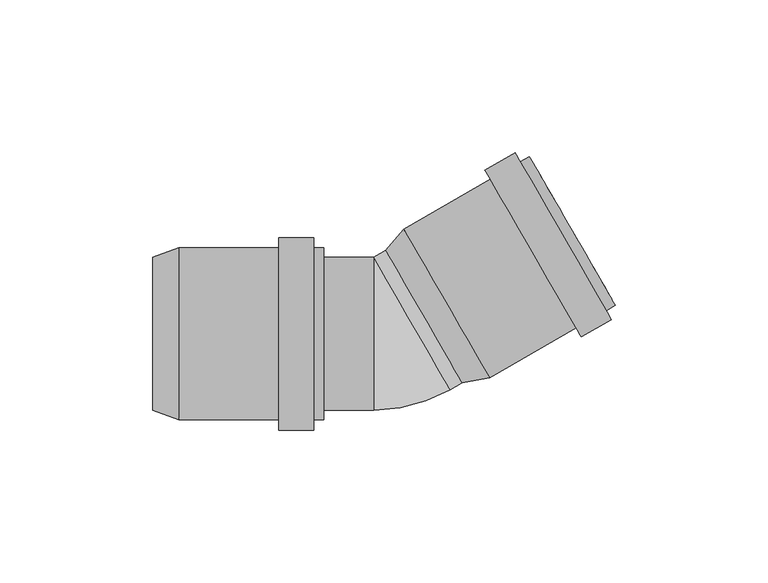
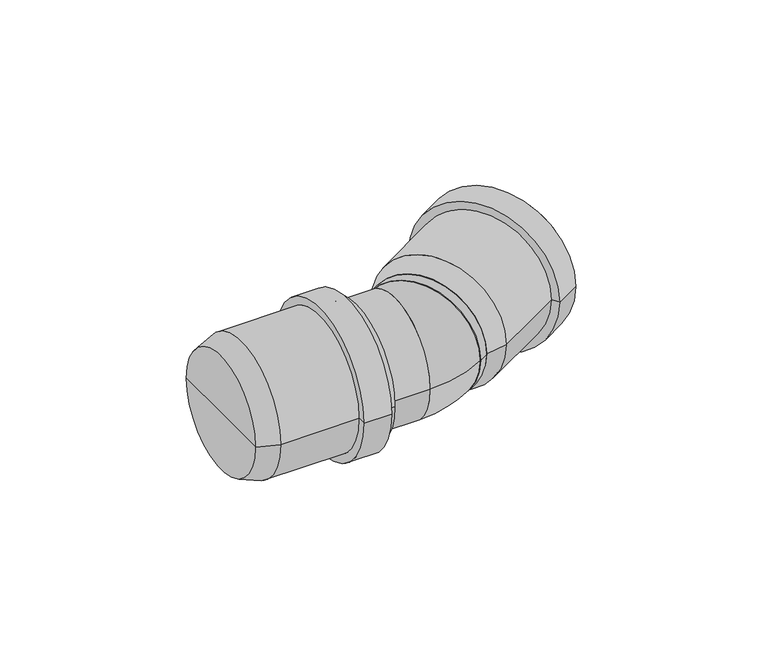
"""IFC4 building model written with IfcOpenShell, lengths in millimetres: pipe fitting geometry, pf_HTB : pf_HTB."""

from ifc_helpers import new_model, si_unit, point, frame, origin, origin_2d, place, context, project, spatial, polyline, circle_curve, ellipse_curve, trimmed, segment, composite_curve, outline, extrude, source, transform, mapped, element, save
from ifc_brep_helpers import plane_surface, cylinder_surface, revolved_surface, advanced_brep


def pipe_fitting_d9e671e8(model_context):
    return source(origin(), model_context, "Body", "SolidModel", [
        advanced_brep(
        [(22.2860871, -16.0006351, 0.0), (-2.7139129, 27.3006351, 0.0), (3.097303, 34.2353138, 0.0), (31.197303, -14.4353138, 0.0), (9.7860871, 5.65, 0.0), (72.3335097, 9.3146862, 0.0), (44.2335097, 57.9853138, 0.0), (45.7835097, 55.3006351, 0.0), (70.7835097, 11.9993649, 0.0), (69.3890233, 7.6146862, 0.0), (41.2890233, 56.2853138, 0.0), (71.0890233, 4.6701998, 0.0), (39.5890233, 59.2298002, 0.0), (61.2163337, -1.0298002, 0.0), (29.7163337, 53.5298002, 0.0), (59.5163337, 1.9146862, 0.0), (31.4163337, 50.5853138, 0.0), (29.647303, -11.7506351, 0.0), (4.647303, 31.5506351, 0.0), (17.147303, 9.9, 0.0)],
        [
            (0, 1, circle_curve(frame((9.7860871, 5.65, 0.0), z_axis=(0.8660254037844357, 0.5000000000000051, 0.0), x_axis=(-0.5000000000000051, 0.8660254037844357, 0.0)), 25.0)),
            (1, 2),
            (2, 3, circle_curve(frame((17.147303, 9.9, 0.0), z_axis=(-0.8660254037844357, -0.5000000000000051, 0.0), x_axis=(-0.5000000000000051, 0.8660254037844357, 0.0)), 28.1)),
            (3, 0),
            (1, 0, circle_curve(frame((9.7860871, 5.65, 0.0), z_axis=(0.8660254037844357, 0.5000000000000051, 0.0), x_axis=(-0.5000000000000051, 0.8660254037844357, 0.0)), 25.0)),
            (3, 2, circle_curve(frame((17.147303, 9.9, 0.0), z_axis=(-0.8660254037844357, -0.5000000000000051, 0.0), x_axis=(-0.5000000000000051, 0.8660254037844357, 0.0)), 28.1)),
            (4, 1),
            (0, 4),
            (5, 6, circle_curve(frame((58.2835097, 33.65, 0.0), z_axis=(0.8660254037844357, 0.5000000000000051, 0.0), x_axis=(-0.5000000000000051, 0.8660254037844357, 0.0)), 28.1)),
            (6, 7),
            (7, 8, circle_curve(frame((58.2835097, 33.65, 0.0), z_axis=(-0.8660254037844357, -0.5000000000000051, 0.0), x_axis=(-0.5000000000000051, 0.8660254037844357, 0.0)), 25.0)),
            (8, 5),
            (6, 5, circle_curve(frame((58.2835097, 33.65, 0.0), z_axis=(0.8660254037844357, 0.5000000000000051, 0.0), x_axis=(-0.5000000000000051, 0.8660254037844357, 0.0)), 28.1)),
            (8, 7, circle_curve(frame((58.2835097, 33.65, 0.0), z_axis=(-0.8660254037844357, -0.5000000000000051, 0.0), x_axis=(-0.5000000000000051, 0.8660254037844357, 0.0)), 25.0)),
            (9, 10, circle_curve(frame((55.3390233, 31.95, 0.0), z_axis=(0.8660254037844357, 0.5000000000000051, 0.0), x_axis=(-0.5000000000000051, 0.8660254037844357, 0.0)), 28.1)),
            (10, 6),
            (5, 9),
            (10, 9, circle_curve(frame((55.3390233, 31.95, 0.0), z_axis=(0.8660254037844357, 0.5000000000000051, 0.0), x_axis=(-0.5000000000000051, 0.8660254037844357, 0.0)), 28.1)),
            (11, 12, circle_curve(frame((55.3390233, 31.95, 0.0), z_axis=(0.8660254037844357, 0.5000000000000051, 0.0), x_axis=(-0.5000000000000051, 0.8660254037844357, 0.0)), 31.5)),
            (12, 10),
            (9, 11),
            (12, 11, circle_curve(frame((55.3390233, 31.95, 0.0), z_axis=(0.8660254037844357, 0.5000000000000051, 0.0), x_axis=(-0.5000000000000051, 0.8660254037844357, 0.0)), 31.5)),
            (13, 14, circle_curve(frame((45.4663337, 26.25, 0.0), z_axis=(0.8660254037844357, 0.5000000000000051, 0.0), x_axis=(-0.5000000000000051, 0.8660254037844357, 0.0)), 31.5)),
            (14, 12),
            (11, 13),
            (14, 13, circle_curve(frame((45.4663337, 26.25, 0.0), z_axis=(0.8660254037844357, 0.5000000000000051, 0.0), x_axis=(-0.5000000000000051, 0.8660254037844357, 0.0)), 31.5)),
            (15, 16, circle_curve(frame((45.4663337, 26.25, 0.0), z_axis=(0.8660254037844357, 0.5000000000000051, 0.0), x_axis=(-0.5000000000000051, 0.8660254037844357, 0.0)), 28.1)),
            (16, 14),
            (13, 15),
            (16, 15, circle_curve(frame((45.4663337, 26.25, 0.0), z_axis=(0.8660254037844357, 0.5000000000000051, 0.0), x_axis=(-0.5000000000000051, 0.8660254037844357, 0.0)), 28.1)),
            (2, 16),
            (15, 3),
            (17, 18, circle_curve(frame((17.147303, 9.9, 0.0), z_axis=(0.8660254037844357, 0.5000000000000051, 0.0), x_axis=(-0.5000000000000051, 0.8660254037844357, 0.0)), 25.0)),
            (18, 19),
            (19, 17),
            (18, 17, circle_curve(frame((17.147303, 9.9, 0.0), z_axis=(0.8660254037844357, 0.5000000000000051, 0.0), x_axis=(-0.5000000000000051, 0.8660254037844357, 0.0)), 25.0)),
            (7, 18),
            (17, 8),
        ],
        [
            revolved_surface(polyline([(3.097303, 34.2353138, 0.0), (-2.7139129, 27.3006351, 0.0)]), (9.7860871, 5.65, 0.0), (-0.8660254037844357, -0.5000000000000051, 0.0)),
            plane_surface(frame((9.7860871, 5.65, 0.0), z_axis=(-0.8660254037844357, -0.5000000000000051, 0.0), x_axis=(-0.5000000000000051, 0.8660254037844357, 0.0))),
            plane_surface(frame((58.2835097, 33.65, 0.0), z_axis=(0.8660254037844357, 0.5000000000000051, 0.0), x_axis=(-0.5000000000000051, 0.8660254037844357, 0.0))),
            cylinder_surface(frame((9.7860871, 5.65, 0.0), z_axis=(-0.8660254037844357, -0.5000000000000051, 0.0), x_axis=(-0.5000000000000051, 0.8660254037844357, 0.0)), 28.1),
            plane_surface(frame((55.3390233, 31.95, 0.0), z_axis=(0.8660254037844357, 0.5000000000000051, 0.0), x_axis=(-0.5000000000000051, 0.8660254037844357, 0.0))),
            cylinder_surface(frame((9.7860871, 5.65, 0.0), z_axis=(-0.8660254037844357, -0.5000000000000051, 0.0), x_axis=(-0.5000000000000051, 0.8660254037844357, 0.0)), 31.5),
            plane_surface(frame((45.4663337, 26.25, 0.0), z_axis=(-0.8660254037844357, -0.5000000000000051, 0.0), x_axis=(-0.5000000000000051, 0.8660254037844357, 0.0))),
            plane_surface(frame((17.147303, 9.9, 0.0), z_axis=(0.8660254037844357, 0.5000000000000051, 0.0), x_axis=(-0.5000000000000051, 0.8660254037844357, 0.0))),
            revolved_surface(polyline([(4.647303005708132, 31.550635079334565, 0.0), (45.783509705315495, 55.30063509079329, 0.0)]), (9.7860871, 5.65, 0.0), (-0.8660254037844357, -0.5000000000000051, 0.0)),
        ],
        [
            (0, [[1, 2, 3, 4]]),
            (0, [[5, -4, 6, -2]]),
            (1, [[7, -1, 8]]),
            (1, [[-8, -5, -7]]),
            (2, [[9, 10, 11, 12]]),
            (2, [[13, -12, 14, -10]]),
            (3, [[15, 16, -9, 17]]),
            (3, [[18, -17, -13, -16]]),
            (4, [[19, 20, -15, 21]]),
            (4, [[22, -21, -18, -20]]),
            (5, [[23, 24, -19, 25]]),
            (5, [[26, -25, -22, -24]]),
            (6, [[27, 28, -23, 29]]),
            (6, [[30, -29, -26, -28]]),
            (3, [[-3, 31, -27, 32]]),
            (3, [[-6, -32, -30, -31]]),
            (7, [[33, 34, 35]]),
            (7, [[36, -35, -34]]),
            (8, [[-11, 37, -33, 38]]),
            (8, [[-14, -38, -36, -37]]),
        ],
    ),
        advanced_brep(
        [(-79.0, -25.0, 0.0), (-79.0, 25.0, 0.0), (-70.5, 28.1, 0.0), (-70.5, -28.1, 0.0), (-79.0, 0.0, 0.0), (-23.0, -28.1, 0.0), (-23.0, 28.1, 0.0), (-23.0, 25.0, 0.0), (-23.0, -25.0, 0.0), (-26.4, -28.1, 0.0), (-26.4, 28.1, 0.0), (-26.4, -31.5, 0.0), (-26.4, 31.5, 0.0), (-37.8, -31.5, 0.0), (-37.8, 31.5, 0.0), (-37.8, -28.1, 0.0), (-37.8, 28.1, 0.0), (-70.5, -25.0, 0.0), (-70.5, 25.0, 0.0), (-70.5, 0.0, 0.0)],
        [
            (0, 1, circle_curve(frame((-79.0, 0.0, 0.0), z_axis=(1.0, 0.0, 0.0), x_axis=(0.0, 1.0, 0.0)), 25.0)),
            (1, 2),
            (2, 3, circle_curve(frame((-70.5, 0.0, 0.0), z_axis=(-1.0, 0.0, 0.0), x_axis=(0.0, 1.0, 0.0)), 28.1)),
            (3, 0),
            (1, 0, circle_curve(frame((-79.0, 0.0, 0.0), z_axis=(1.0, 0.0, 0.0), x_axis=(0.0, 1.0, 0.0)), 25.0)),
            (3, 2, circle_curve(frame((-70.5, 0.0, 0.0), z_axis=(-1.0, 0.0, 0.0), x_axis=(0.0, 1.0, 0.0)), 28.1)),
            (4, 1),
            (0, 4),
            (5, 6, circle_curve(frame((-23.0, 0.0, 0.0), z_axis=(1.0, 0.0, 0.0), x_axis=(0.0, 1.0, 0.0)), 28.1)),
            (6, 7),
            (7, 8, circle_curve(frame((-23.0, 0.0, 0.0), z_axis=(-1.0, 0.0, 0.0), x_axis=(0.0, 1.0, 0.0)), 25.0)),
            (8, 5),
            (6, 5, circle_curve(frame((-23.0, 0.0, 0.0), z_axis=(1.0, 0.0, 0.0), x_axis=(0.0, 1.0, 0.0)), 28.1)),
            (8, 7, circle_curve(frame((-23.0, 0.0, 0.0), z_axis=(-1.0, 0.0, 0.0), x_axis=(0.0, 1.0, 0.0)), 25.0)),
            (9, 10, circle_curve(frame((-26.4, 0.0, 0.0), z_axis=(1.0, 0.0, 0.0), x_axis=(0.0, 1.0, 0.0)), 28.1)),
            (10, 6),
            (5, 9),
            (10, 9, circle_curve(frame((-26.4, 0.0, 0.0), z_axis=(1.0, 0.0, 0.0), x_axis=(0.0, 1.0, 0.0)), 28.1)),
            (11, 12, circle_curve(frame((-26.4, 0.0, 0.0), z_axis=(1.0, 0.0, 0.0), x_axis=(0.0, 1.0, 0.0)), 31.5)),
            (12, 10),
            (9, 11),
            (12, 11, circle_curve(frame((-26.4, 0.0, 0.0), z_axis=(1.0, 0.0, 0.0), x_axis=(0.0, 1.0, 0.0)), 31.5)),
            (13, 14, circle_curve(frame((-37.8, 0.0, 0.0), z_axis=(1.0, 0.0, 0.0), x_axis=(0.0, 1.0, 0.0)), 31.5)),
            (14, 12),
            (11, 13),
            (14, 13, circle_curve(frame((-37.8, 0.0, 0.0), z_axis=(1.0, 0.0, 0.0), x_axis=(0.0, 1.0, 0.0)), 31.5)),
            (15, 16, circle_curve(frame((-37.8, 0.0, 0.0), z_axis=(1.0, 0.0, 0.0), x_axis=(0.0, 1.0, 0.0)), 28.1)),
            (16, 14),
            (13, 15),
            (16, 15, circle_curve(frame((-37.8, 0.0, 0.0), z_axis=(1.0, 0.0, 0.0), x_axis=(0.0, 1.0, 0.0)), 28.1)),
            (2, 16),
            (15, 3),
            (17, 18, circle_curve(frame((-70.5, 0.0, 0.0), z_axis=(1.0, 0.0, 0.0), x_axis=(0.0, 1.0, 0.0)), 25.0)),
            (18, 19),
            (19, 17),
            (18, 17, circle_curve(frame((-70.5, 0.0, 0.0), z_axis=(1.0, 0.0, 0.0), x_axis=(0.0, 1.0, 0.0)), 25.0)),
            (7, 18),
            (17, 8),
        ],
        [
            revolved_surface(polyline([(-70.5, 28.1, 0.0), (-79.0, 25.0, 0.0)]), (-79.0, 0.0, 0.0), (-1.0, 0.0, 0.0)),
            plane_surface(frame((-79.0, 0.0, 0.0), z_axis=(-1.0, 0.0, 0.0), x_axis=(0.0, 1.0, 0.0))),
            plane_surface(frame((-23.0, 0.0, 0.0), z_axis=(1.0, 0.0, 0.0), x_axis=(0.0, 1.0, 0.0))),
            cylinder_surface(frame((-79.0, 0.0, 0.0), z_axis=(-1.0, 0.0, 0.0), x_axis=(0.0, 1.0, 0.0)), 28.1),
            plane_surface(frame((-26.4, 0.0, 0.0), z_axis=(1.0, 0.0, 0.0), x_axis=(0.0, 1.0, 0.0))),
            cylinder_surface(frame((-79.0, 0.0, 0.0), z_axis=(-1.0, 0.0, 0.0), x_axis=(0.0, 1.0, 0.0)), 31.5),
            plane_surface(frame((-37.8, 0.0, 0.0), z_axis=(-1.0, 0.0, 0.0), x_axis=(0.0, 1.0, 0.0))),
            plane_surface(frame((-70.5, 0.0, 0.0), z_axis=(1.0, 0.0, 0.0), x_axis=(0.0, 1.0, 0.0))),
            revolved_surface(polyline([(-70.5, 25.0, 0.0), (-23.0, 25.0, 0.0)]), (-79.0, 0.0, 0.0), (-1.0, 0.0, 0.0)),
        ],
        [
            (0, [[1, 2, 3, 4]]),
            (0, [[5, -4, 6, -2]]),
            (1, [[7, -1, 8]]),
            (1, [[-8, -5, -7]]),
            (2, [[9, 10, 11, 12]]),
            (2, [[13, -12, 14, -10]]),
            (3, [[15, 16, -9, 17]]),
            (3, [[18, -17, -13, -16]]),
            (4, [[19, 20, -15, 21]]),
            (4, [[22, -21, -18, -20]]),
            (5, [[23, 24, -19, 25]]),
            (5, [[26, -25, -22, -24]]),
            (6, [[27, 28, -23, 29]]),
            (6, [[30, -29, -26, -28]]),
            (3, [[-3, 31, -27, 32]]),
            (3, [[-6, -32, -30, -31]]),
            (7, [[33, 34, 35]]),
            (7, [[36, -35, -34]]),
            (8, [[-11, 37, -33, 38]]),
            (8, [[-14, -38, -36, -37]]),
        ],
    ),
        extrude(outline(composite_curve([segment(trimmed(circle_curve(origin_2d(), 25.0), [point((0.0, -25.0))], [point((0.0, 25.0))], False, "CARTESIAN"), True, "CONTINUOUS"), segment(trimmed(circle_curve(origin_2d(), 25.0), [point((0.0, 25.0))], [point((0.0, -25.0))], False, "CARTESIAN"), True, "CONTINUOUS")], self_intersect=False)), frame((5.8012702, 3.3493649, 0.0), z_axis=(0.8660254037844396, 0.49999999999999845, 0.0), x_axis=(0.0, 0.0, 1.0)), (0.0, 0.0, 1.0), 13.1012702),
        extrude(outline(composite_curve([segment(trimmed(circle_curve(origin_2d(), 25.0), [point((-25.0, 0.0))], [point((25.0, 0.0))], False, "CARTESIAN"), True, "CONTINUOUS"), segment(trimmed(circle_curve(origin_2d(), 25.0), [point((25.0, 0.0))], [point((-25.0, 0.0))], False, "CARTESIAN"), True, "CONTINUOUS")], self_intersect=False)), frame((-70.5, 0.0, 0.0), z_axis=(1.0, 0.0, 0.0), x_axis=(0.0, 1.0, 0.0)), (0.0, 0.0, 1.0), 63.8012702),
        advanced_brep(
        [(-6.6987298, -25.0, 0.0), (-6.6987298, 25.0, 0.0), (18.3012702, -18.3012702, 0.0)],
        [
            (0, 1, circle_curve(frame((-6.6987298, 0.0, 0.0), z_axis=(-1.0, 0.0, 0.0), x_axis=(0.0, 1.0, 0.0)), 25.0)),
            (1, 0, circle_curve(frame((-6.6987298, 0.0, 0.0), z_axis=(-1.0, 0.0, 0.0), x_axis=(0.0, 1.0, 0.0)), 25.0)),
            (2, 1, circle_curve(frame((5.8012702, 3.3493649, 0.0), z_axis=(0.8660254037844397, 0.49999999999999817, 0.0), x_axis=(-0.49999999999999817, 0.8660254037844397, 0.0)), 25.0)),
            (1, 2, circle_curve(frame((5.8012702, 3.3493649, 0.0), z_axis=(0.8660254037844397, 0.49999999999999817, 0.0), x_axis=(-0.49999999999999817, 0.8660254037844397, 0.0)), 25.0)),
            (2, 0, circle_curve(frame((-6.6987298, 25.0, 0.0), z_axis=(0.0, 0.0, -1.0), x_axis=(0.0, -1.0, 0.0)), 50.0)),
        ],
        [
            plane_surface(frame((-6.6987298, 25.0, -14.8), z_axis=(-1.0, 0.0, 0.0), x_axis=(0.0, -1.0, 0.0))),
            plane_surface(frame((-6.6987298, 25.0, -14.8), z_axis=(0.8660254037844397, 0.4999999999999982, 0.0), x_axis=(0.4999999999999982, -0.8660254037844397, 0.0))),
            revolved_surface(trimmed(ellipse_curve(frame((-6.6987298, 0.0, 0.0), z_axis=(1.0, 0.0, 0.0), x_axis=(0.0, 1.0, 0.0)), 25.0, 25.0), [point((-6.6987298, -25.0, 0.0))], [point((-6.6987298, 25.0, 0.0))], True, "CARTESIAN"), (-6.6987298, 25.0, -14.8), (0.0, 0.0, -1.0)),
            revolved_surface(trimmed(ellipse_curve(frame((-6.6987298, 0.0, 0.0), z_axis=(1.0, 0.0, 0.0), x_axis=(0.0, 1.0, 0.0)), 25.0, 25.0), [point((-6.6987298, 25.0, 0.0))], [point((-6.6987298, -25.0, 0.0))], True, "CARTESIAN"), (-6.6987298, 25.0, -14.8), (0.0, 0.0, -1.0)),
        ],
        [
            (0, [[1, 2]]),
            (1, [[3, 4]]),
            (2, [[5, -2, -3]]),
            (3, [[-1, -5, -4]]),
        ],
    ),
    ])


if __name__ == "__main__":
    model = new_model("IFC4")
    model_context = context("Model", 3, world=origin())
    ifc_project = project(units=[si_unit("LENGTHUNIT", "METRE", prefix="MILLI")], contexts=[model_context])
    site = spatial("IfcSite", under=ifc_project)
    building = spatial("IfcBuilding", under=site)
    placement = place(None, origin())
    pipe_fitting_shape = pipe_fitting_d9e671e8(model_context)
    element("IfcPipeFitting", 1, ObjectType="pf_HTB : pf_HTB", at=placement, inside=building, context=model_context, shape_type="MappedRepresentation", body=[
        mapped(pipe_fitting_shape, transform((0.0, 0.0, 0.0), x_axis=(1.0, 0.0, 0.0), y_axis=(0.0, 1.0, 0.0), z_axis=(0.0, 0.0, 1.0))),
    ])
    save(model, "model.ifc")
